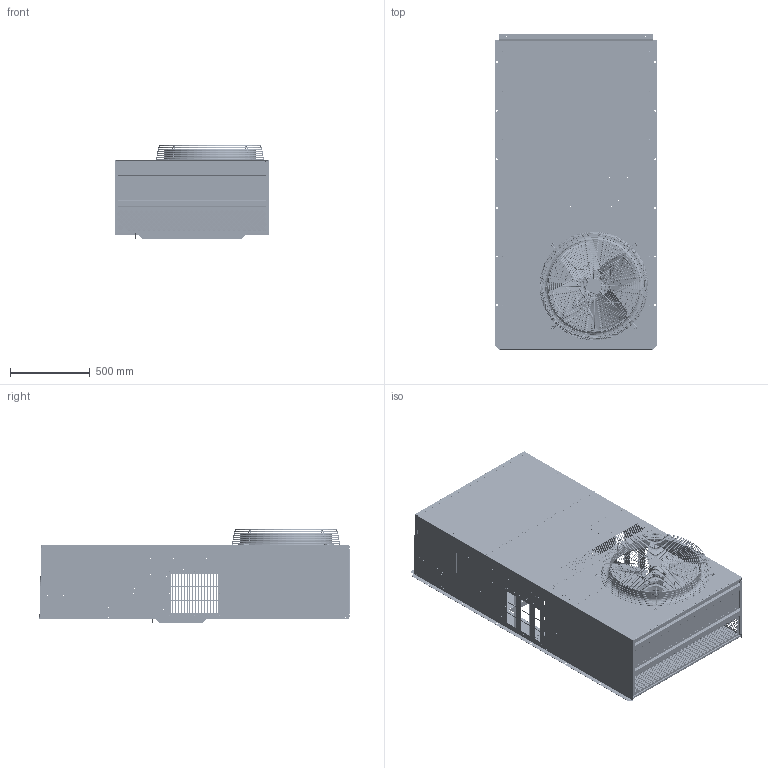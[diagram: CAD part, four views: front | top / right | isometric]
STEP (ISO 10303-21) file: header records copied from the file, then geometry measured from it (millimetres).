
FILE_DESCRIPTION (( 'STEP AP214' ), '1' );
FILE_NAME ('MAA1036 B1 ECONO.STEP', '2023-03-06T18:15:36', ( '' ), ( '' ), 'SwSTEP 2.0', 'SolidWorks 2022', '' );
FILE_SCHEMA (( 'AUTOMOTIVE_DESIGN' ));
Length unit declared in the file: inch
Products named in the file (25): 81789; SMM45077X; SMM45059X; SMM13085X; SMM23027X; SNM45059A; SMM45060X; SMM45030X; SMM45047X; MAA1036 B1 ECONO; 30256_613144-CTN; SMM10021X; SMM12018X; SD10650; 93273; 40302_5KCP39PFBE40S; SMM23029X; SMM22010X; SMM23077X; SMM13086X; SMM16003X3p2b; 81788; SMM12017X_SMM12017X INSTALLED; SMM10022X
Assembly tree (26 placements, depth 3):
  MAA1036 B1 ECONO
    SMM10021X
    SMM10022X  x2
    SMM12017X_SMM12017X INSTALLED
    SMM12018X
    SMM13085X
    SMM13086X
    SMM16003X3p2b
    SMM22010X
    SMM23077X
    SMM23027X
    SMM45030X
    SMM45059X
      SMM45059X
      SNM45059A
    SD10650
      SMM23029X
      SMM45060X
      30256_613144-CTN
      40302_5KCP39PFBE40S
      81788
      81789
      93273
    SMM45047X
    SMM45077X  x2
Bounding box: 1016.46 x 1978.08 x 591.82 mm (x, y, z)
Volume: 7715782.7 mm3; surface area: 15218345.1 mm2
Topology: 83 solids, 107 shells, 8031 faces, 21461 edges, 13457 vertices
Faces by surface type: plane 4074, cylinder 1863, bspline 1266, torus 600, cone 206, sphere 22
Entity records: 606867 total; most frequent: CARTESIAN_POINT 418347, ORIENTED_EDGE 39767, DIRECTION 32038, EDGE_CURVE 19981, VERTEX_POINT 12569, LINE 10738, VECTOR 10738, AXIS2_PLACEMENT_3D 10650
